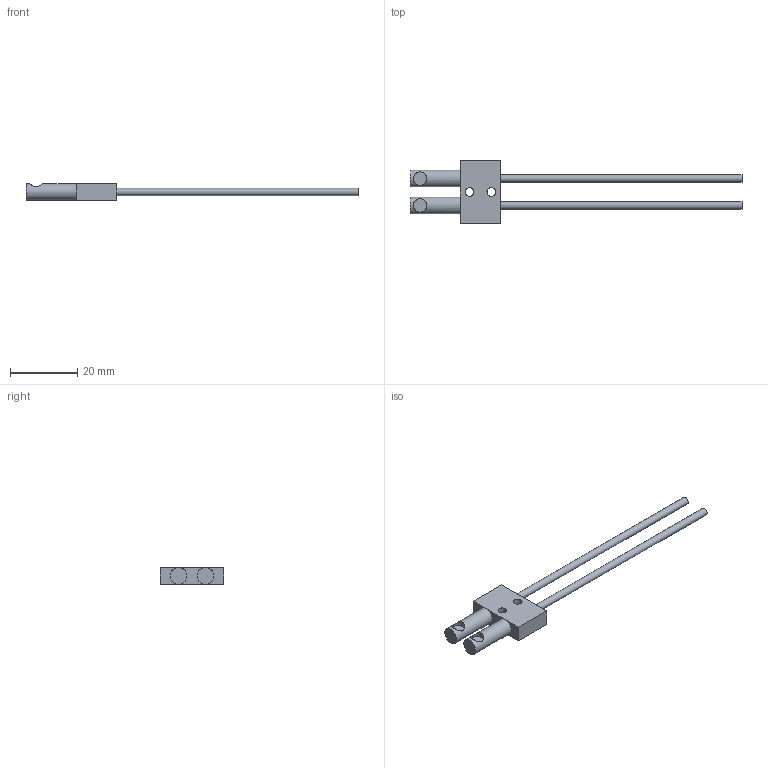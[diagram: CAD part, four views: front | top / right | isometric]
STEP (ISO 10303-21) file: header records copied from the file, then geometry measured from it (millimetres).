
FILE_DESCRIPTION(/* description */ (''),/* implementation_level */ '2;1');
FILE_NAME(/* name */ 'web_kf_eth_38h_20.stp',/* time_stamp */ '2013-01-08T14:44:35+01:00',/* author */ (''),/* organization */ (''),/* preprocessor_version */ 'ST-DEVELOPER v11',/* originating_system */ 'SIEMENS UGS NX 6.0',/* authorisation */ '');
FILE_SCHEMA (('CONFIG_CONTROL_DESIGN'));
Length unit declared in the file: millimetre
Products named in the file (1): 003808_00.0
Bounding box: 99 x 19 x 5 mm (x, y, z)
Volume: 2191.2 mm3; surface area: 2316.1 mm2
Topology: 1 solids, 1 shells, 22 faces, 46 edges, 28 vertices
Faces by surface type: plane 14, cylinder 8
Full cylindrical faces by diameter (mm): 2.2 x2, 2.6 x2, 4 x2, 5 x2
Entity records: 736 total; most frequent: CARTESIAN_POINT 215, DIRECTION 94, ORIENTED_EDGE 68, AXIS2_PLACEMENT_3D 39, EDGE_LOOP 38, EDGE_CURVE 34, FACE_BOUND 27, VERTEX_POINT 26
